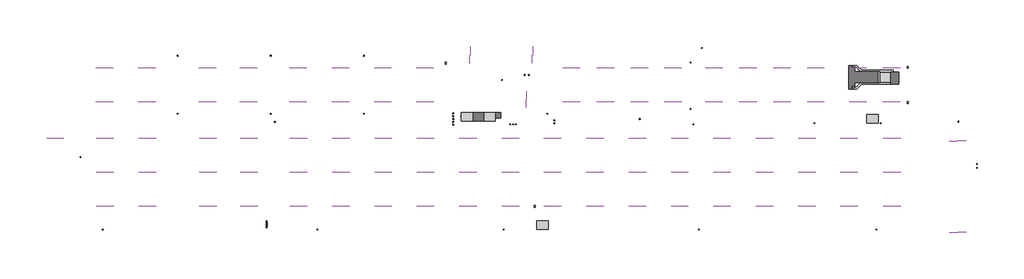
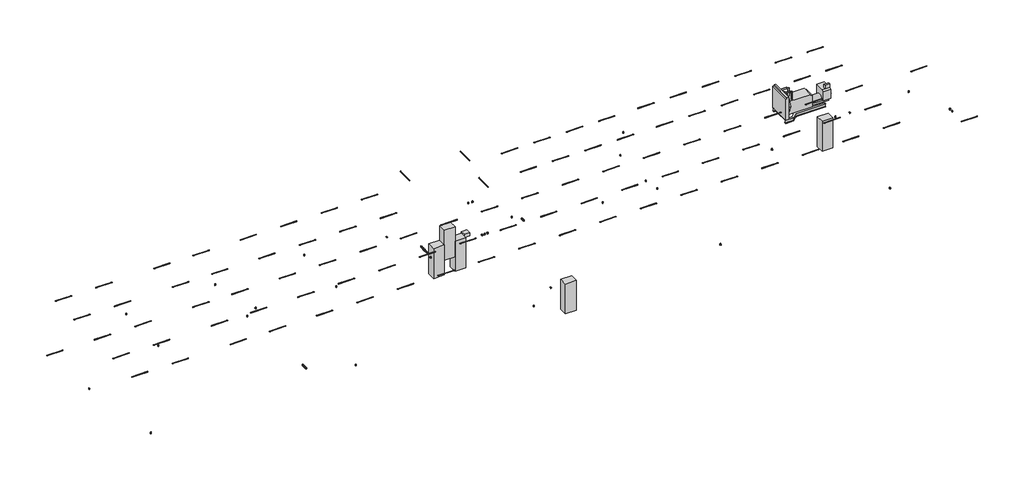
# One storey: 99 light fixtures, 31 proxies, 23 switching devices.
"""IFC4 building model written with IfcOpenShell, lengths in millimetres."""

from ifc_helpers import new_model, si_unit, origin, place, context, project, spatial, transform, mapped, element, save
from components import electrical_fixtures_10251bba, proxy_100_a_aaeb1d20, proxy_15_kva_9bd1221f, proxy_300_kw_5f2c5fbb, proxy_75_a_97e29286, light_fixture_5f90fc17

model = new_model("IFC4")

# Units and contexts
model_context = context("Model", 3, world=origin())
ifc_project = project(units=[si_unit("LENGTHUNIT", "METRE", prefix="MILLI")], contexts=[model_context])

# Site, building, storey
site = spatial("IfcSite", under=ifc_project)
building = spatial("IfcBuilding", under=site)
storey = spatial("IfcBuildingStorey", under=building, Name="B1F 插座", Elevation=-3850.0)

# Proxies
placement = place(None, origin())
electrical_fixtures_shape = electrical_fixtures_10251bba(model_context)
element("IfcBuildingElementProxy", 1, Name="M_雙插座盒 : 標準", ObjectType="M_雙插座盒 : 標準", at=placement, inside=storey, context=model_context, shape_type="MappedRepresentation", body=[
    mapped(electrical_fixtures_shape, transform((-1757.8389591, 3445.8783319, -3550.0), x_axis=(1.0, 0.0, 0.0), y_axis=(0.0, 0.0, 1.0), z_axis=(0.0, -1.0, 0.0))),
])
element("IfcBuildingElementProxy", 2, Name="M_雙插座盒 : 標準", ObjectType="M_雙插座盒 : 標準", at=placement, inside=storey, context=model_context, shape_type="MappedRepresentation", body=[
    mapped(electrical_fixtures_shape, transform((4842.1610409, 3445.8783319, -3550.0), x_axis=(1.0, 0.0, 0.0), y_axis=(0.0, 0.0, 1.0), z_axis=(0.0, -1.0, 0.0))),
])
element("IfcBuildingElementProxy", 3, Name="M_雙插座盒 : 標準", ObjectType="M_雙插座盒 : 標準", at=placement, inside=storey, context=model_context, shape_type="MappedRepresentation", body=[
    mapped(electrical_fixtures_shape, transform((11442.1610409, -624.1216681, -3550.0), x_axis=(-1.0, 0.0, 0.0), y_axis=(0.0, 0.0, 1.0), z_axis=(0.0, 1.0, 0.0))),
])
element("IfcBuildingElementProxy", 4, Name="M_雙插座盒 : 標準", ObjectType="M_雙插座盒 : 標準", at=placement, inside=storey, context=model_context, shape_type="MappedRepresentation", body=[
    mapped(electrical_fixtures_shape, transform((11442.1610409, 3445.8783319, -3550.0), x_axis=(1.0, 0.0, 0.0), y_axis=(0.0, 0.0, 1.0), z_axis=(0.0, -1.0, 0.0))),
])
element("IfcBuildingElementProxy", 5, Name="M_雙插座盒 : 標準", ObjectType="M_雙插座盒 : 標準", at=placement, inside=storey, context=model_context, shape_type="MappedRepresentation", body=[
    mapped(electrical_fixtures_shape, transform((4842.1610409, -624.1216681, -3550.0), x_axis=(-1.0, 0.0, 0.0), y_axis=(0.0, 0.0, 1.0), z_axis=(0.0, 1.0, 0.0))),
])
element("IfcBuildingElementProxy", 6, Name="M_雙插座盒 : 標準", ObjectType="M_雙插座盒 : 標準", at=placement, inside=storey, context=model_context, shape_type="MappedRepresentation", body=[
    mapped(electrical_fixtures_shape, transform((-1757.8389591, -624.1216681, -3550.0), x_axis=(-1.0, 0.0, 0.0), y_axis=(0.0, 0.0, 1.0), z_axis=(0.0, 1.0, 0.0))),
])
element("IfcBuildingElementProxy", 7, Name="M_雙插座盒 : 標準", ObjectType="M_雙插座盒 : 標準", at=placement, inside=storey, context=model_context, shape_type="MappedRepresentation", body=[
    mapped(electrical_fixtures_shape, transform((-7057.8389591, -8844.1216681, -3550.0), x_axis=(-1.0, 0.0, 0.0), y_axis=(0.0, 0.0, 1.0), z_axis=(0.0, 1.0, 0.0))),
])
element("IfcBuildingElementProxy", 8, Name="M_雙插座盒 : 標準", ObjectType="M_雙插座盒 : 標準", at=placement, inside=storey, context=model_context, shape_type="MappedRepresentation", body=[
    mapped(electrical_fixtures_shape, transform((8142.1610409, -8844.1216681, -3550.0), x_axis=(-1.0, 0.0, 0.0), y_axis=(0.0, 0.0, 1.0), z_axis=(0.0, 1.0, 0.0))),
])
element("IfcBuildingElementProxy", 9, Name="M_雙插座盒 : 標準", ObjectType="M_雙插座盒 : 標準", at=placement, inside=storey, context=model_context, shape_type="MappedRepresentation", body=[
    mapped(electrical_fixtures_shape, transform((21343.1610409, -8844.1216681, -3550.0), x_axis=(-1.0, 0.0, 0.0), y_axis=(0.0, 0.0, 1.0), z_axis=(0.0, 1.0, 0.0))),
])
element("IfcBuildingElementProxy", 10, Name="M_雙插座盒 : 標準", ObjectType="M_雙插座盒 : 標準", at=placement, inside=storey, context=model_context, shape_type="MappedRepresentation", body=[
    mapped(electrical_fixtures_shape, transform((35172.1610409, -8844.1216681, -3550.0), x_axis=(-1.0, 0.0, 0.0), y_axis=(0.0, 0.0, 1.0), z_axis=(0.0, 1.0, 0.0))),
])
element("IfcBuildingElementProxy", 11, Name="M_雙插座盒 : 標準", ObjectType="M_雙插座盒 : 標準", at=placement, inside=storey, context=model_context, shape_type="MappedRepresentation", body=[
    mapped(electrical_fixtures_shape, transform((47742.1610409, -8844.1216681, -3550.0), x_axis=(-1.0, 0.0, 0.0), y_axis=(0.0, 0.0, 1.0), z_axis=(0.0, 1.0, 0.0))),
])
element("IfcBuildingElementProxy", 12, Name="M_雙插座盒 : 標準", ObjectType="M_雙插座盒 : 標準", at=placement, inside=storey, context=model_context, shape_type="MappedRepresentation", body=[
    mapped(electrical_fixtures_shape, transform((43342.1610409, -1304.1216681, -3550.0), x_axis=(-1.0, 0.0, 0.0), y_axis=(0.0, 0.0, 1.0), z_axis=(0.0, 1.0, 0.0))),
])
element("IfcBuildingElementProxy", 13, Name="M_雙插座盒 : 標準", ObjectType="M_雙插座盒 : 標準", at=placement, inside=storey, context=model_context, shape_type="MappedRepresentation", body=[
    mapped(electrical_fixtures_shape, transform((34782.1610409, -1424.1216681, -3550.0), x_axis=(1.0, 0.0, 0.0), y_axis=(0.0, 0.0, 1.0), z_axis=(0.0, -1.0, 0.0))),
])
element("IfcBuildingElementProxy", 14, Name="M_雙插座盒 : 標準", ObjectType="M_雙插座盒 : 標準", at=placement, inside=storey, context=model_context, shape_type="MappedRepresentation", body=[
    mapped(electrical_fixtures_shape, transform((34602.1610409, -304.1216681, -3550.0), x_axis=(0.0, 1.0, 0.0), y_axis=(0.0, 0.0, 1.0), z_axis=(1.0, 0.0, 0.0))),
])
element("IfcBuildingElementProxy", 15, Name="M_雙插座盒 : 標準", ObjectType="M_雙插座盒 : 標準", at=placement, inside=storey, context=model_context, shape_type="MappedRepresentation", body=[
    mapped(electrical_fixtures_shape, transform((34602.1610409, 2995.8783319, -3550.0), x_axis=(0.0, 1.0, 0.0), y_axis=(0.0, 0.0, 1.0), z_axis=(1.0, 0.0, 0.0))),
])
element("IfcBuildingElementProxy", 16, Name="M_雙插座盒 : 標準", ObjectType="M_雙插座盒 : 標準", at=placement, inside=storey, context=model_context, shape_type="MappedRepresentation", body=[
    mapped(electrical_fixtures_shape, transform((30942.1610409, -1024.1216681, -3550.0), x_axis=(0.0, -1.0, 0.0), y_axis=(0.0, 0.0, 1.0), z_axis=(-1.0, 0.0, 0.0))),
])
element("IfcBuildingElementProxy", 17, Name="M_雙插座盒 : 標準", ObjectType="M_雙插座盒 : 標準", at=placement, inside=storey, context=model_context, shape_type="MappedRepresentation", body=[
    mapped(electrical_fixtures_shape, transform((21192.1610409, 1745.8783319, -3550.0), x_axis=(0.0, -1.0, 0.0), y_axis=(0.0, 0.0, 1.0), z_axis=(-1.0, 0.0, 0.0))),
])
element("IfcBuildingElementProxy", 18, Name="M_雙插座盒 : 標準", ObjectType="M_雙插座盒 : 標準", at=placement, inside=storey, context=model_context, shape_type="MappedRepresentation", body=[
    mapped(electrical_fixtures_shape, transform((18342.1610409, -824.1216681, -3550.0), x_axis=(0.0, 1.0, 0.0), y_axis=(0.0, 0.0, 1.0), z_axis=(1.0, 0.0, 0.0))),
])
element("IfcBuildingElementProxy", 19, Name="M_馬達開關 : 標準", ObjectType="M_馬達開關 : 標準", at=placement, inside=storey, context=model_context, shape_type="MappedRepresentation", body=[
    mapped(electrical_fixtures_shape, transform((5142.1610409, -1224.1216681, -2650.0), x_axis=(0.0, 1.0, 0.0), y_axis=(0.0, 0.0, 1.0), z_axis=(1.0, 0.0, 0.0))),
])
element("IfcBuildingElementProxy", 20, Name="M_馬達開關 : 標準", ObjectType="M_馬達開關 : 標準", at=placement, inside=storey, context=model_context, shape_type="MappedRepresentation", body=[
    mapped(electrical_fixtures_shape, transform((17242.1610409, 2945.8783319, -3850.0), x_axis=(1.0, 0.0, 0.0), y_axis=(0.0, 1.0, 0.0), z_axis=(0.0, 0.0, 1.0))),
])
element("IfcBuildingElementProxy", 21, Name="M_馬達開關 : 標準", ObjectType="M_馬達開關 : 標準", at=placement, inside=storey, context=model_context, shape_type="MappedRepresentation", body=[
    mapped(electrical_fixtures_shape, transform((35382.1610409, 3995.8783319, -2650.0), x_axis=(1.0, 0.0, 0.0), y_axis=(0.0, 0.0, 1.0), z_axis=(0.0, -1.0, 0.0))),
])
element("IfcBuildingElementProxy", 22, Name="M_馬達開關 : 標準", ObjectType="M_馬達開關 : 標準", at=placement, inside=storey, context=model_context, shape_type="MappedRepresentation", body=[
    mapped(electrical_fixtures_shape, transform((49942.1610409, 2645.8783319, -3850.0), x_axis=(1.0, 0.0, 0.0), y_axis=(0.0, 1.0, 0.0), z_axis=(0.0, 0.0, 1.0))),
])
element("IfcBuildingElementProxy", 23, Name="M_馬達開關 : 標準", ObjectType="M_馬達開關 : 標準", at=placement, inside=storey, context=model_context, shape_type="MappedRepresentation", body=[
    mapped(electrical_fixtures_shape, transform((49942.1610409, 145.8783319, -3850.0), x_axis=(1.0, 0.0, 0.0), y_axis=(0.0, 1.0, 0.0), z_axis=(0.0, 0.0, 1.0))),
])
element("IfcBuildingElementProxy", 24, Name="M_馬達開關 : 標準", ObjectType="M_馬達開關 : 標準", at=placement, inside=storey, context=model_context, shape_type="MappedRepresentation", body=[
    mapped(electrical_fixtures_shape, transform((23542.1610409, -7224.1216681, -3850.0), x_axis=(1.0, 0.0, 0.0), y_axis=(0.0, 1.0, 0.0), z_axis=(0.0, 0.0, 1.0))),
])
proxy_100_a_shape = proxy_100_a_aaeb1d20(model_context)
element("IfcBuildingElementProxy", 25, Name="M_燈光與家電用品配電盤 - 208V MCB - 表面 : 100 A", ObjectType="M_燈光與家電用品配電盤 - 208V MCB - 表面 : 100 A", at=placement, inside=storey, context=model_context, shape_type="MappedRepresentation", body=[
    mapped(proxy_100_a_shape, transform((19446.9015703, -574.1216681, -2438.8943297), x_axis=(1.0, 0.0, 0.0), y_axis=(0.0, 0.0, 1.0), z_axis=(0.0, -1.0, 0.0))),
])
element("IfcBuildingElementProxy", 26, Name="M_燈光與家電用品配電盤 - 208V MCB - 表面 : 100 A", ObjectType="M_燈光與家電用品配電盤 - 208V MCB - 表面 : 100 A", at=placement, inside=storey, context=model_context, shape_type="MappedRepresentation", body=[
    mapped(proxy_100_a_shape, transform((47557.4205115, -1304.1216681, -3588.8943297), x_axis=(-1.0, 0.0, 0.0), y_axis=(0.0, 0.0, 1.0), z_axis=(0.0, 1.0, 0.0))),
])
element("IfcBuildingElementProxy", 27, Name="M_燈光與家電用品配電盤 - 208V MCB - 表面 : 100 A", ObjectType="M_燈光與家電用品配電盤 - 208V MCB - 表面 : 100 A", at=placement, inside=storey, context=model_context, shape_type="MappedRepresentation", body=[
    mapped(proxy_100_a_shape, transform((24183.4205115, -8844.1216681, -3588.8943297), x_axis=(-1.0, 0.0, 0.0), y_axis=(0.0, 0.0, 1.0), z_axis=(0.0, 1.0, 0.0))),
])
element("IfcBuildingElementProxy", 28, Name="M_燈光與家電用品配電盤 - 208V MCB - 表面 : 100 A", ObjectType="M_燈光與家電用品配電盤 - 208V MCB - 表面 : 100 A", at=placement, inside=storey, context=model_context, shape_type="MappedRepresentation", body=[
    mapped(proxy_100_a_shape, transform((20246.9015703, -574.1216681, -3588.8943297), x_axis=(1.0, 0.0, 0.0), y_axis=(0.0, 0.0, 1.0), z_axis=(0.0, -1.0, 0.0))),
])
proxy_15_kva_shape = proxy_15_kva_9bd1221f(model_context)
element("IfcBuildingElementProxy", 29, Name="M_乾式變壓器 - 480-208Y120 - NEMA 類型 3R : 15 kVA", ObjectType="M_乾式變壓器 - 480-208Y120 - NEMA 類型 3R : 15 kVA", at=placement, inside=storey, context=model_context, shape_type="MappedRepresentation", body=[
    mapped(proxy_15_kva_shape, transform((20942.1610409, -574.1216681, -2650.0), x_axis=(1.0, 0.0, 0.0), y_axis=(0.0, 0.0, 1.0), z_axis=(0.0, -1.0, 0.0))),
])
proxy_300_kw_shape = proxy_300_kw_5f2c5fbb(model_context)
element("IfcBuildingElementProxy", 30, Name="M_柴油機緊急發電機 : 300 kW", ObjectType="M_柴油機緊急發電機 : 300 kW", at=placement, inside=storey, context=model_context, shape_type="MappedRepresentation", body=[
    mapped(proxy_300_kw_shape, transform((47542.1610409, 1945.8783319, -3850.0), x_axis=(1.0, 0.0, 0.0), y_axis=(0.0, 1.0, 0.0), z_axis=(0.0, 0.0, 1.0))),
])
proxy_75_a_shape = proxy_75_a_97e29286(model_context)
element("IfcBuildingElementProxy", 31, Name="M_燈光與家電用品配電盤 - 480V MCB - 表面 : 75 A", ObjectType="M_燈光與家電用品配電盤 - 480V MCB - 表面 : 75 A", at=placement, inside=storey, context=model_context, shape_type="MappedRepresentation", body=[
    mapped(proxy_75_a_shape, transform((18640.5610409, -574.1216681, -2650.0), x_axis=(1.0, 0.0, 0.0), y_axis=(0.0, 0.0, 1.0), z_axis=(0.0, -1.0, 0.0))),
])

# Light fixtures
light_fixture_shape = light_fixture_5f90fc17(model_context)
element("IfcLightFixture", 32, ObjectType="M_嵌燈 - 條燈 : 1200mm - 220V 28W*2", at=placement, inside=storey, context=model_context, shape_type="MappedRepresentation", body=[
    mapped(light_fixture_shape, transform((-6907.8389591, 2824.5219083, -3850.0), x_axis=(1.0, 0.0, 0.0), y_axis=(0.0, 1.0, 0.0), z_axis=(0.0, 0.0, 1.0))),
])
element("IfcLightFixture", 33, ObjectType="M_嵌燈 - 條燈 : 1200mm - 220V 28W*2", at=placement, inside=storey, context=model_context, shape_type="MappedRepresentation", body=[
    mapped(light_fixture_shape, transform((-3907.8389591, 2824.5219083, -3850.0), x_axis=(1.0, 0.0, 0.0), y_axis=(0.0, 1.0, 0.0), z_axis=(0.0, 0.0, 1.0))),
])
element("IfcLightFixture", 34, ObjectType="M_嵌燈 - 條燈 : 1200mm - 220V 28W*2", at=placement, inside=storey, context=model_context, shape_type="MappedRepresentation", body=[
    mapped(light_fixture_shape, transform((-3907.8389591, 424.5219083, -3850.0), x_axis=(1.0, 0.0, 0.0), y_axis=(0.0, 1.0, 0.0), z_axis=(0.0, 0.0, 1.0))),
])
element("IfcLightFixture", 35, ObjectType="M_嵌燈 - 條燈 : 1200mm - 220V 28W*2", at=placement, inside=storey, context=model_context, shape_type="MappedRepresentation", body=[
    mapped(light_fixture_shape, transform((-6907.8389591, 424.5219083, -3850.0), x_axis=(1.0, 0.0, 0.0), y_axis=(0.0, 1.0, 0.0), z_axis=(0.0, 0.0, 1.0))),
])
element("IfcLightFixture", 36, ObjectType="M_嵌燈 - 條燈 : 1200mm - 220V 28W*2", at=placement, inside=storey, context=model_context, shape_type="MappedRepresentation", body=[
    mapped(light_fixture_shape, transform((-6907.8389591, -2175.4780917, -3850.0), x_axis=(1.0, 0.0, 0.0), y_axis=(0.0, 1.0, 0.0), z_axis=(0.0, 0.0, 1.0))),
])
element("IfcLightFixture", 37, ObjectType="M_嵌燈 - 條燈 : 1200mm - 220V 28W*2", at=placement, inside=storey, context=model_context, shape_type="MappedRepresentation", body=[
    mapped(light_fixture_shape, transform((-3907.8389591, -2175.4780917, -3850.0), x_axis=(1.0, 0.0, 0.0), y_axis=(0.0, 1.0, 0.0), z_axis=(0.0, 0.0, 1.0))),
])
element("IfcLightFixture", 38, ObjectType="M_嵌燈 - 條燈 : 1200mm - 220V 28W*2", at=placement, inside=storey, context=model_context, shape_type="MappedRepresentation", body=[
    mapped(light_fixture_shape, transform((-6907.8389591, -4575.4780917, -3850.0), x_axis=(1.0, 0.0, 0.0), y_axis=(0.0, 1.0, 0.0), z_axis=(0.0, 0.0, 1.0))),
])
element("IfcLightFixture", 39, ObjectType="M_嵌燈 - 條燈 : 1200mm - 220V 28W*2", at=placement, inside=storey, context=model_context, shape_type="MappedRepresentation", body=[
    mapped(light_fixture_shape, transform((-3907.8389591, -4575.4780917, -3850.0), x_axis=(1.0, 0.0, 0.0), y_axis=(0.0, 1.0, 0.0), z_axis=(0.0, 0.0, 1.0))),
])
element("IfcLightFixture", 40, ObjectType="M_嵌燈 - 條燈 : 1200mm - 220V 28W*2", at=placement, inside=storey, context=model_context, shape_type="MappedRepresentation", body=[
    mapped(light_fixture_shape, transform((-3907.8389591, -6975.4780917, -3850.0), x_axis=(1.0, 0.0, 0.0), y_axis=(0.0, 1.0, 0.0), z_axis=(0.0, 0.0, 1.0))),
])
element("IfcLightFixture", 41, ObjectType="M_嵌燈 - 條燈 : 1200mm - 220V 28W*2", at=placement, inside=storey, context=model_context, shape_type="MappedRepresentation", body=[
    mapped(light_fixture_shape, transform((-6907.8389591, -6975.4780917, -3850.0), x_axis=(1.0, 0.0, 0.0), y_axis=(0.0, 1.0, 0.0), z_axis=(0.0, 0.0, 1.0))),
])
element("IfcLightFixture", 42, ObjectType="M_嵌燈 - 條燈 : 1200mm - 220V 28W*2", at=placement, inside=storey, context=model_context, shape_type="MappedRepresentation", body=[
    mapped(light_fixture_shape, transform((392.1610409, 2824.5219083, -3850.0), x_axis=(1.0, 0.0, 0.0), y_axis=(0.0, 1.0, 0.0), z_axis=(0.0, 0.0, 1.0))),
])
element("IfcLightFixture", 43, ObjectType="M_嵌燈 - 條燈 : 1200mm - 220V 28W*2", at=placement, inside=storey, context=model_context, shape_type="MappedRepresentation", body=[
    mapped(light_fixture_shape, transform((3292.1610409, 2824.5219083, -3850.0), x_axis=(1.0, 0.0, 0.0), y_axis=(0.0, 1.0, 0.0), z_axis=(0.0, 0.0, 1.0))),
])
element("IfcLightFixture", 44, ObjectType="M_嵌燈 - 條燈 : 1200mm - 220V 28W*2", at=placement, inside=storey, context=model_context, shape_type="MappedRepresentation", body=[
    mapped(light_fixture_shape, transform((3292.1610409, 424.5219083, -3850.0), x_axis=(1.0, 0.0, 0.0), y_axis=(0.0, 1.0, 0.0), z_axis=(0.0, 0.0, 1.0))),
])
element("IfcLightFixture", 45, ObjectType="M_嵌燈 - 條燈 : 1200mm - 220V 28W*2", at=placement, inside=storey, context=model_context, shape_type="MappedRepresentation", body=[
    mapped(light_fixture_shape, transform((392.1610409, 424.5219083, -3850.0), x_axis=(1.0, 0.0, 0.0), y_axis=(0.0, 1.0, 0.0), z_axis=(0.0, 0.0, 1.0))),
])
element("IfcLightFixture", 46, ObjectType="M_嵌燈 - 條燈 : 1200mm - 220V 28W*2", at=placement, inside=storey, context=model_context, shape_type="MappedRepresentation", body=[
    mapped(light_fixture_shape, transform((392.1610409, -2175.4780917, -3850.0), x_axis=(1.0, 0.0, 0.0), y_axis=(0.0, 1.0, 0.0), z_axis=(0.0, 0.0, 1.0))),
])
element("IfcLightFixture", 47, ObjectType="M_嵌燈 - 條燈 : 1200mm - 220V 28W*2", at=placement, inside=storey, context=model_context, shape_type="MappedRepresentation", body=[
    mapped(light_fixture_shape, transform((3292.1610409, -2175.4780917, -3850.0), x_axis=(1.0, 0.0, 0.0), y_axis=(0.0, 1.0, 0.0), z_axis=(0.0, 0.0, 1.0))),
])
element("IfcLightFixture", 48, ObjectType="M_嵌燈 - 條燈 : 1200mm - 220V 28W*2", at=placement, inside=storey, context=model_context, shape_type="MappedRepresentation", body=[
    mapped(light_fixture_shape, transform((3292.1610409, -4575.4780917, -3850.0), x_axis=(1.0, 0.0, 0.0), y_axis=(0.0, 1.0, 0.0), z_axis=(0.0, 0.0, 1.0))),
])
element("IfcLightFixture", 49, ObjectType="M_嵌燈 - 條燈 : 1200mm - 220V 28W*2", at=placement, inside=storey, context=model_context, shape_type="MappedRepresentation", body=[
    mapped(light_fixture_shape, transform((392.1610409, -4575.4780917, -3850.0), x_axis=(1.0, 0.0, 0.0), y_axis=(0.0, 1.0, 0.0), z_axis=(0.0, 0.0, 1.0))),
])
element("IfcLightFixture", 50, ObjectType="M_嵌燈 - 條燈 : 1200mm - 220V 28W*2", at=placement, inside=storey, context=model_context, shape_type="MappedRepresentation", body=[
    mapped(light_fixture_shape, transform((392.1610409, -6975.4780917, -3850.0), x_axis=(1.0, 0.0, 0.0), y_axis=(0.0, 1.0, 0.0), z_axis=(0.0, 0.0, 1.0))),
])
element("IfcLightFixture", 51, ObjectType="M_嵌燈 - 條燈 : 1200mm - 220V 28W*2", at=placement, inside=storey, context=model_context, shape_type="MappedRepresentation", body=[
    mapped(light_fixture_shape, transform((3292.1610409, -6975.4780917, -3850.0), x_axis=(1.0, 0.0, 0.0), y_axis=(0.0, 1.0, 0.0), z_axis=(0.0, 0.0, 1.0))),
])
element("IfcLightFixture", 52, ObjectType="M_嵌燈 - 條燈 : 1200mm - 220V 28W*2", at=placement, inside=storey, context=model_context, shape_type="MappedRepresentation", body=[
    mapped(light_fixture_shape, transform((6792.1610409, -2175.4780917, -3850.0), x_axis=(1.0, 0.0, 0.0), y_axis=(0.0, 1.0, 0.0), z_axis=(0.0, 0.0, 1.0))),
])
element("IfcLightFixture", 53, ObjectType="M_嵌燈 - 條燈 : 1200mm - 220V 28W*2", at=placement, inside=storey, context=model_context, shape_type="MappedRepresentation", body=[
    mapped(light_fixture_shape, transform((9792.1610409, -2175.4780917, -3850.0), x_axis=(1.0, 0.0, 0.0), y_axis=(0.0, 1.0, 0.0), z_axis=(0.0, 0.0, 1.0))),
])
element("IfcLightFixture", 54, ObjectType="M_嵌燈 - 條燈 : 1200mm - 220V 28W*2", at=placement, inside=storey, context=model_context, shape_type="MappedRepresentation", body=[
    mapped(light_fixture_shape, transform((9792.1610409, -4575.4780917, -3850.0), x_axis=(1.0, 0.0, 0.0), y_axis=(0.0, 1.0, 0.0), z_axis=(0.0, 0.0, 1.0))),
])
element("IfcLightFixture", 55, ObjectType="M_嵌燈 - 條燈 : 1200mm - 220V 28W*2", at=placement, inside=storey, context=model_context, shape_type="MappedRepresentation", body=[
    mapped(light_fixture_shape, transform((6792.1610409, -4575.4780917, -3850.0), x_axis=(1.0, 0.0, 0.0), y_axis=(0.0, 1.0, 0.0), z_axis=(0.0, 0.0, 1.0))),
])
element("IfcLightFixture", 56, ObjectType="M_嵌燈 - 條燈 : 1200mm - 220V 28W*2", at=placement, inside=storey, context=model_context, shape_type="MappedRepresentation", body=[
    mapped(light_fixture_shape, transform((6792.1610409, -6975.4780917, -3850.0), x_axis=(1.0, 0.0, 0.0), y_axis=(0.0, 1.0, 0.0), z_axis=(0.0, 0.0, 1.0))),
])
element("IfcLightFixture", 57, ObjectType="M_嵌燈 - 條燈 : 1200mm - 220V 28W*2", at=placement, inside=storey, context=model_context, shape_type="MappedRepresentation", body=[
    mapped(light_fixture_shape, transform((9792.1610409, -6975.4780917, -3850.0), x_axis=(1.0, 0.0, 0.0), y_axis=(0.0, 1.0, 0.0), z_axis=(0.0, 0.0, 1.0))),
])
element("IfcLightFixture", 58, ObjectType="M_嵌燈 - 條燈 : 1200mm - 220V 28W*2", at=placement, inside=storey, context=model_context, shape_type="MappedRepresentation", body=[
    mapped(light_fixture_shape, transform((6792.1610409, 424.5219083, -3850.0), x_axis=(1.0, 0.0, 0.0), y_axis=(0.0, 1.0, 0.0), z_axis=(0.0, 0.0, 1.0))),
])
element("IfcLightFixture", 59, ObjectType="M_嵌燈 - 條燈 : 1200mm - 220V 28W*2", at=placement, inside=storey, context=model_context, shape_type="MappedRepresentation", body=[
    mapped(light_fixture_shape, transform((9792.1610409, 424.5219083, -3850.0), x_axis=(1.0, 0.0, 0.0), y_axis=(0.0, 1.0, 0.0), z_axis=(0.0, 0.0, 1.0))),
])
element("IfcLightFixture", 60, ObjectType="M_嵌燈 - 條燈 : 1200mm - 220V 28W*2", at=placement, inside=storey, context=model_context, shape_type="MappedRepresentation", body=[
    mapped(light_fixture_shape, transform((9792.1610409, 2824.5219083, -3850.0), x_axis=(1.0, 0.0, 0.0), y_axis=(0.0, 1.0, 0.0), z_axis=(0.0, 0.0, 1.0))),
])
element("IfcLightFixture", 61, ObjectType="M_嵌燈 - 條燈 : 1200mm - 220V 28W*2", at=placement, inside=storey, context=model_context, shape_type="MappedRepresentation", body=[
    mapped(light_fixture_shape, transform((12792.1610409, 2824.5219083, -3850.0), x_axis=(1.0, 0.0, 0.0), y_axis=(0.0, 1.0, 0.0), z_axis=(0.0, 0.0, 1.0))),
])
element("IfcLightFixture", 62, ObjectType="M_嵌燈 - 條燈 : 1200mm - 220V 28W*2", at=placement, inside=storey, context=model_context, shape_type="MappedRepresentation", body=[
    mapped(light_fixture_shape, transform((15792.1610409, 2824.5219083, -3850.0), x_axis=(1.0, 0.0, 0.0), y_axis=(0.0, 1.0, 0.0), z_axis=(0.0, 0.0, 1.0))),
])
element("IfcLightFixture", 63, ObjectType="M_嵌燈 - 條燈 : 1200mm - 220V 28W*2", at=placement, inside=storey, context=model_context, shape_type="MappedRepresentation", body=[
    mapped(light_fixture_shape, transform((12792.1610409, 424.5219083, -3850.0), x_axis=(1.0, 0.0, 0.0), y_axis=(0.0, 1.0, 0.0), z_axis=(0.0, 0.0, 1.0))),
])
element("IfcLightFixture", 64, ObjectType="M_嵌燈 - 條燈 : 1200mm - 220V 28W*2", at=placement, inside=storey, context=model_context, shape_type="MappedRepresentation", body=[
    mapped(light_fixture_shape, transform((15792.1610409, 424.5219083, -3850.0), x_axis=(1.0, 0.0, 0.0), y_axis=(0.0, 1.0, 0.0), z_axis=(0.0, 0.0, 1.0))),
])
element("IfcLightFixture", 65, ObjectType="M_嵌燈 - 條燈 : 1200mm - 220V 28W*2", at=placement, inside=storey, context=model_context, shape_type="MappedRepresentation", body=[
    mapped(light_fixture_shape, transform((12792.1610409, -2175.4780917, -3850.0), x_axis=(1.0, 0.0, 0.0), y_axis=(0.0, 1.0, 0.0), z_axis=(0.0, 0.0, 1.0))),
])
element("IfcLightFixture", 66, ObjectType="M_嵌燈 - 條燈 : 1200mm - 220V 28W*2", at=placement, inside=storey, context=model_context, shape_type="MappedRepresentation", body=[
    mapped(light_fixture_shape, transform((15792.1610409, -2175.4780917, -3850.0), x_axis=(1.0, 0.0, 0.0), y_axis=(0.0, 1.0, 0.0), z_axis=(0.0, 0.0, 1.0))),
])
element("IfcLightFixture", 67, ObjectType="M_嵌燈 - 條燈 : 1200mm - 220V 28W*2", at=placement, inside=storey, context=model_context, shape_type="MappedRepresentation", body=[
    mapped(light_fixture_shape, transform((12792.1610409, -4575.4780917, -3850.0), x_axis=(1.0, 0.0, 0.0), y_axis=(0.0, 1.0, 0.0), z_axis=(0.0, 0.0, 1.0))),
])
element("IfcLightFixture", 68, ObjectType="M_嵌燈 - 條燈 : 1200mm - 220V 28W*2", at=placement, inside=storey, context=model_context, shape_type="MappedRepresentation", body=[
    mapped(light_fixture_shape, transform((12792.1610409, -6975.4780917, -3850.0), x_axis=(1.0, 0.0, 0.0), y_axis=(0.0, 1.0, 0.0), z_axis=(0.0, 0.0, 1.0))),
])
element("IfcLightFixture", 69, ObjectType="M_嵌燈 - 條燈 : 1200mm - 220V 28W*2", at=placement, inside=storey, context=model_context, shape_type="MappedRepresentation", body=[
    mapped(light_fixture_shape, transform((15792.1610409, -4575.4780917, -3850.0), x_axis=(1.0, 0.0, 0.0), y_axis=(0.0, 1.0, 0.0), z_axis=(0.0, 0.0, 1.0))),
])
element("IfcLightFixture", 70, ObjectType="M_嵌燈 - 條燈 : 1200mm - 220V 28W*2", at=placement, inside=storey, context=model_context, shape_type="MappedRepresentation", body=[
    mapped(light_fixture_shape, transform((15792.1610409, -6975.4780917, -3850.0), x_axis=(1.0, 0.0, 0.0), y_axis=(0.0, 1.0, 0.0), z_axis=(0.0, 0.0, 1.0))),
])
element("IfcLightFixture", 71, ObjectType="M_嵌燈 - 條燈 : 1200mm - 220V 28W*2", at=placement, inside=storey, context=model_context, shape_type="MappedRepresentation", body=[
    mapped(light_fixture_shape, transform((18792.1610409, -2175.4780917, -3850.0), x_axis=(1.0, 0.0, 0.0), y_axis=(0.0, 1.0, 0.0), z_axis=(0.0, 0.0, 1.0))),
])
element("IfcLightFixture", 72, ObjectType="M_嵌燈 - 條燈 : 1200mm - 220V 28W*2", at=placement, inside=storey, context=model_context, shape_type="MappedRepresentation", body=[
    mapped(light_fixture_shape, transform((21792.1610409, -2175.4780917, -3850.0), x_axis=(1.0, 0.0, 0.0), y_axis=(0.0, 1.0, 0.0), z_axis=(0.0, 0.0, 1.0))),
])
element("IfcLightFixture", 73, ObjectType="M_嵌燈 - 條燈 : 1200mm - 220V 28W*2", at=placement, inside=storey, context=model_context, shape_type="MappedRepresentation", body=[
    mapped(light_fixture_shape, transform((21792.1610409, -4575.4780917, -3850.0), x_axis=(1.0, 0.0, 0.0), y_axis=(0.0, 1.0, 0.0), z_axis=(0.0, 0.0, 1.0))),
])
element("IfcLightFixture", 74, ObjectType="M_嵌燈 - 條燈 : 1200mm - 220V 28W*2", at=placement, inside=storey, context=model_context, shape_type="MappedRepresentation", body=[
    mapped(light_fixture_shape, transform((18792.1610409, -4575.4780917, -3850.0), x_axis=(1.0, 0.0, 0.0), y_axis=(0.0, 1.0, 0.0), z_axis=(0.0, 0.0, 1.0))),
])
element("IfcLightFixture", 75, ObjectType="M_嵌燈 - 條燈 : 1200mm - 220V 28W*2", at=placement, inside=storey, context=model_context, shape_type="MappedRepresentation", body=[
    mapped(light_fixture_shape, transform((18792.1610409, -6975.4780917, -3850.0), x_axis=(1.0, 0.0, 0.0), y_axis=(0.0, 1.0, 0.0), z_axis=(0.0, 0.0, 1.0))),
])
element("IfcLightFixture", 76, ObjectType="M_嵌燈 - 條燈 : 1200mm - 220V 28W*2", at=placement, inside=storey, context=model_context, shape_type="MappedRepresentation", body=[
    mapped(light_fixture_shape, transform((21792.1610409, -6975.4780917, -3850.0), x_axis=(1.0, 0.0, 0.0), y_axis=(0.0, 1.0, 0.0), z_axis=(0.0, 0.0, 1.0))),
])
element("IfcLightFixture", 77, ObjectType="M_嵌燈 - 條燈 : 1200mm - 220V 28W*2", at=placement, inside=storey, context=model_context, shape_type="MappedRepresentation", body=[
    mapped(light_fixture_shape, transform((24792.1610409, -2175.4780917, -3850.0), x_axis=(1.0, 0.0, 0.0), y_axis=(0.0, 1.0, 0.0), z_axis=(0.0, 0.0, 1.0))),
])
element("IfcLightFixture", 78, ObjectType="M_嵌燈 - 條燈 : 1200mm - 220V 28W*2", at=placement, inside=storey, context=model_context, shape_type="MappedRepresentation", body=[
    mapped(light_fixture_shape, transform((24792.1610409, -4575.4780917, -3850.0), x_axis=(1.0, 0.0, 0.0), y_axis=(0.0, 1.0, 0.0), z_axis=(0.0, 0.0, 1.0))),
])
element("IfcLightFixture", 79, ObjectType="M_嵌燈 - 條燈 : 1200mm - 220V 28W*2", at=placement, inside=storey, context=model_context, shape_type="MappedRepresentation", body=[
    mapped(light_fixture_shape, transform((24792.1610409, -6975.4780917, -3850.0), x_axis=(1.0, 0.0, 0.0), y_axis=(0.0, 1.0, 0.0), z_axis=(0.0, 0.0, 1.0))),
])
element("IfcLightFixture", 80, ObjectType="M_嵌燈 - 條燈 : 1200mm - 220V 28W*2", at=placement, inside=storey, context=model_context, shape_type="MappedRepresentation", body=[
    mapped(light_fixture_shape, transform((27792.1610409, -2175.4780917, -3850.0), x_axis=(1.0, 0.0, 0.0), y_axis=(0.0, 1.0, 0.0), z_axis=(0.0, 0.0, 1.0))),
])
element("IfcLightFixture", 81, ObjectType="M_嵌燈 - 條燈 : 1200mm - 220V 28W*2", at=placement, inside=storey, context=model_context, shape_type="MappedRepresentation", body=[
    mapped(light_fixture_shape, transform((27792.1610409, -4575.4780917, -3850.0), x_axis=(1.0, 0.0, 0.0), y_axis=(0.0, 1.0, 0.0), z_axis=(0.0, 0.0, 1.0))),
])
element("IfcLightFixture", 82, ObjectType="M_嵌燈 - 條燈 : 1200mm - 220V 28W*2", at=placement, inside=storey, context=model_context, shape_type="MappedRepresentation", body=[
    mapped(light_fixture_shape, transform((27792.1610409, -6975.4780917, -3850.0), x_axis=(1.0, 0.0, 0.0), y_axis=(0.0, 1.0, 0.0), z_axis=(0.0, 0.0, 1.0))),
])
element("IfcLightFixture", 83, ObjectType="M_嵌燈 - 條燈 : 1200mm - 220V 28W*2", at=placement, inside=storey, context=model_context, shape_type="MappedRepresentation", body=[
    mapped(light_fixture_shape, transform((30792.1610409, -2175.4780917, -3850.0), x_axis=(1.0, 0.0, 0.0), y_axis=(0.0, 1.0, 0.0), z_axis=(0.0, 0.0, 1.0))),
])
element("IfcLightFixture", 84, ObjectType="M_嵌燈 - 條燈 : 1200mm - 220V 28W*2", at=placement, inside=storey, context=model_context, shape_type="MappedRepresentation", body=[
    mapped(light_fixture_shape, transform((30792.1610409, -4575.4780917, -3850.0), x_axis=(1.0, 0.0, 0.0), y_axis=(0.0, 1.0, 0.0), z_axis=(0.0, 0.0, 1.0))),
])
element("IfcLightFixture", 85, ObjectType="M_嵌燈 - 條燈 : 1200mm - 220V 28W*2", at=placement, inside=storey, context=model_context, shape_type="MappedRepresentation", body=[
    mapped(light_fixture_shape, transform((30792.1610409, -6975.4780917, -3850.0), x_axis=(1.0, 0.0, 0.0), y_axis=(0.0, 1.0, 0.0), z_axis=(0.0, 0.0, 1.0))),
])
element("IfcLightFixture", 86, ObjectType="M_嵌燈 - 條燈 : 1200mm - 220V 28W*2", at=placement, inside=storey, context=model_context, shape_type="MappedRepresentation", body=[
    mapped(light_fixture_shape, transform((33792.1610409, -2175.4780917, -3850.0), x_axis=(1.0, 0.0, 0.0), y_axis=(0.0, 1.0, 0.0), z_axis=(0.0, 0.0, 1.0))),
])
element("IfcLightFixture", 87, ObjectType="M_嵌燈 - 條燈 : 1200mm - 220V 28W*2", at=placement, inside=storey, context=model_context, shape_type="MappedRepresentation", body=[
    mapped(light_fixture_shape, transform((33792.1610409, -4575.4780917, -3850.0), x_axis=(1.0, 0.0, 0.0), y_axis=(0.0, 1.0, 0.0), z_axis=(0.0, 0.0, 1.0))),
])
element("IfcLightFixture", 88, ObjectType="M_嵌燈 - 條燈 : 1200mm - 220V 28W*2", at=placement, inside=storey, context=model_context, shape_type="MappedRepresentation", body=[
    mapped(light_fixture_shape, transform((33792.1610409, -6975.4780917, -3850.0), x_axis=(1.0, 0.0, 0.0), y_axis=(0.0, 1.0, 0.0), z_axis=(0.0, 0.0, 1.0))),
])
element("IfcLightFixture", 89, ObjectType="M_嵌燈 - 條燈 : 1200mm - 220V 28W*2", at=placement, inside=storey, context=model_context, shape_type="MappedRepresentation", body=[
    mapped(light_fixture_shape, transform((36792.1610409, -2175.4780917, -3850.0), x_axis=(1.0, 0.0, 0.0), y_axis=(0.0, 1.0, 0.0), z_axis=(0.0, 0.0, 1.0))),
])
element("IfcLightFixture", 90, ObjectType="M_嵌燈 - 條燈 : 1200mm - 220V 28W*2", at=placement, inside=storey, context=model_context, shape_type="MappedRepresentation", body=[
    mapped(light_fixture_shape, transform((36792.1610409, -4575.4780917, -3850.0), x_axis=(1.0, 0.0, 0.0), y_axis=(0.0, 1.0, 0.0), z_axis=(0.0, 0.0, 1.0))),
])
element("IfcLightFixture", 91, ObjectType="M_嵌燈 - 條燈 : 1200mm - 220V 28W*2", at=placement, inside=storey, context=model_context, shape_type="MappedRepresentation", body=[
    mapped(light_fixture_shape, transform((36792.1610409, -6975.4780917, -3850.0), x_axis=(1.0, 0.0, 0.0), y_axis=(0.0, 1.0, 0.0), z_axis=(0.0, 0.0, 1.0))),
])
element("IfcLightFixture", 92, ObjectType="M_嵌燈 - 條燈 : 1200mm - 220V 28W*2", at=placement, inside=storey, context=model_context, shape_type="MappedRepresentation", body=[
    mapped(light_fixture_shape, transform((39792.1610409, -6975.4780917, -3850.0), x_axis=(1.0, 0.0, 0.0), y_axis=(0.0, 1.0, 0.0), z_axis=(0.0, 0.0, 1.0))),
])
element("IfcLightFixture", 93, ObjectType="M_嵌燈 - 條燈 : 1200mm - 220V 28W*2", at=placement, inside=storey, context=model_context, shape_type="MappedRepresentation", body=[
    mapped(light_fixture_shape, transform((39792.1610409, -4575.4780917, -3850.0), x_axis=(1.0, 0.0, 0.0), y_axis=(0.0, 1.0, 0.0), z_axis=(0.0, 0.0, 1.0))),
])
element("IfcLightFixture", 94, ObjectType="M_嵌燈 - 條燈 : 1200mm - 220V 28W*2", at=placement, inside=storey, context=model_context, shape_type="MappedRepresentation", body=[
    mapped(light_fixture_shape, transform((39792.1610409, -2175.4780917, -3850.0), x_axis=(1.0, 0.0, 0.0), y_axis=(0.0, 1.0, 0.0), z_axis=(0.0, 0.0, 1.0))),
])
element("IfcLightFixture", 95, ObjectType="M_嵌燈 - 條燈 : 1200mm - 220V 28W*2", at=placement, inside=storey, context=model_context, shape_type="MappedRepresentation", body=[
    mapped(light_fixture_shape, transform((42792.1610409, -2175.4780917, -3850.0), x_axis=(1.0, 0.0, 0.0), y_axis=(0.0, 1.0, 0.0), z_axis=(0.0, 0.0, 1.0))),
])
element("IfcLightFixture", 96, ObjectType="M_嵌燈 - 條燈 : 1200mm - 220V 28W*2", at=placement, inside=storey, context=model_context, shape_type="MappedRepresentation", body=[
    mapped(light_fixture_shape, transform((42792.1610409, -4575.4780917, -3850.0), x_axis=(1.0, 0.0, 0.0), y_axis=(0.0, 1.0, 0.0), z_axis=(0.0, 0.0, 1.0))),
])
element("IfcLightFixture", 97, ObjectType="M_嵌燈 - 條燈 : 1200mm - 220V 28W*2", at=placement, inside=storey, context=model_context, shape_type="MappedRepresentation", body=[
    mapped(light_fixture_shape, transform((42792.1610409, -6975.4780917, -3850.0), x_axis=(1.0, 0.0, 0.0), y_axis=(0.0, 1.0, 0.0), z_axis=(0.0, 0.0, 1.0))),
])
element("IfcLightFixture", 98, ObjectType="M_嵌燈 - 條燈 : 1200mm - 220V 28W*2", at=placement, inside=storey, context=model_context, shape_type="MappedRepresentation", body=[
    mapped(light_fixture_shape, transform((45792.1610409, -6975.4780917, -3850.0), x_axis=(1.0, 0.0, 0.0), y_axis=(0.0, 1.0, 0.0), z_axis=(0.0, 0.0, 1.0))),
])
element("IfcLightFixture", 99, ObjectType="M_嵌燈 - 條燈 : 1200mm - 220V 28W*2", at=placement, inside=storey, context=model_context, shape_type="MappedRepresentation", body=[
    mapped(light_fixture_shape, transform((45792.1610409, -4575.4780917, -3850.0), x_axis=(1.0, 0.0, 0.0), y_axis=(0.0, 1.0, 0.0), z_axis=(0.0, 0.0, 1.0))),
])
element("IfcLightFixture", 100, ObjectType="M_嵌燈 - 條燈 : 1200mm - 220V 28W*2", at=placement, inside=storey, context=model_context, shape_type="MappedRepresentation", body=[
    mapped(light_fixture_shape, transform((45792.1610409, -2175.4780917, -3850.0), x_axis=(1.0, 0.0, 0.0), y_axis=(0.0, 1.0, 0.0), z_axis=(0.0, 0.0, 1.0))),
])
element("IfcLightFixture", 101, ObjectType="M_嵌燈 - 條燈 : 1200mm - 220V 28W*2", at=placement, inside=storey, context=model_context, shape_type="MappedRepresentation", body=[
    mapped(light_fixture_shape, transform((48812.1610409, -2175.4780917, -3850.0), x_axis=(1.0, 0.0, 0.0), y_axis=(0.0, 1.0, 0.0), z_axis=(0.0, 0.0, 1.0))),
])
element("IfcLightFixture", 102, ObjectType="M_嵌燈 - 條燈 : 1200mm - 220V 28W*2", at=placement, inside=storey, context=model_context, shape_type="MappedRepresentation", body=[
    mapped(light_fixture_shape, transform((48812.1610409, -4575.4780917, -3850.0), x_axis=(1.0, 0.0, 0.0), y_axis=(0.0, 1.0, 0.0), z_axis=(0.0, 0.0, 1.0))),
])
element("IfcLightFixture", 103, ObjectType="M_嵌燈 - 條燈 : 1200mm - 220V 28W*2", at=placement, inside=storey, context=model_context, shape_type="MappedRepresentation", body=[
    mapped(light_fixture_shape, transform((48812.1610409, -6975.4780917, -3850.0), x_axis=(1.0, 0.0, 0.0), y_axis=(0.0, 1.0, 0.0), z_axis=(0.0, 0.0, 1.0))),
])
element("IfcLightFixture", 104, ObjectType="M_嵌燈 - 條燈 : 1200mm - 220V 28W*2", at=placement, inside=storey, context=model_context, shape_type="MappedRepresentation", body=[
    mapped(light_fixture_shape, transform((-10437.8389591, -2175.4780917, -3850.0), x_axis=(1.0, 0.0, 0.0), y_axis=(0.0, 1.0, 0.0), z_axis=(0.0, 0.0, 1.0))),
])
element("IfcLightFixture", 105, ObjectType="M_嵌燈 - 條燈 : 1200mm - 220V 28W*2", at=placement, inside=storey, context=model_context, shape_type="MappedRepresentation", body=[
    mapped(light_fixture_shape, transform((19160.8046174, 3525.8783319, -3850.0), x_axis=(0.0, -1.0, 0.0), y_axis=(1.0, 0.0, 0.0), z_axis=(0.0, 0.0, 1.0))),
])
element("IfcLightFixture", 106, ObjectType="M_嵌燈 - 條燈 : 1200mm - 220V 28W*2", at=placement, inside=storey, context=model_context, shape_type="MappedRepresentation", body=[
    mapped(light_fixture_shape, transform((6792.1610409, 2824.5219083, -3850.0), x_axis=(1.0, 0.0, 0.0), y_axis=(0.0, 1.0, 0.0), z_axis=(0.0, 0.0, 1.0))),
])
element("IfcLightFixture", 107, ObjectType="M_嵌燈 - 條燈 : 1200mm - 220V 28W*2", at=placement, inside=storey, context=model_context, shape_type="MappedRepresentation", body=[
    mapped(light_fixture_shape, transform((26162.1610409, 2824.5219083, -3850.0), x_axis=(1.0, 0.0, 0.0), y_axis=(0.0, 1.0, 0.0), z_axis=(0.0, 0.0, 1.0))),
])
element("IfcLightFixture", 108, ObjectType="M_嵌燈 - 條燈 : 1200mm - 220V 28W*2", at=placement, inside=storey, context=model_context, shape_type="MappedRepresentation", body=[
    mapped(light_fixture_shape, transform((26162.1610409, 424.5219083, -3850.0), x_axis=(1.0, 0.0, 0.0), y_axis=(0.0, 1.0, 0.0), z_axis=(0.0, 0.0, 1.0))),
])
element("IfcLightFixture", 109, ObjectType="M_嵌燈 - 條燈 : 1200mm - 220V 28W*2", at=placement, inside=storey, context=model_context, shape_type="MappedRepresentation", body=[
    mapped(light_fixture_shape, transform((28562.1610409, 424.5219083, -3850.0), x_axis=(1.0, 0.0, 0.0), y_axis=(0.0, 1.0, 0.0), z_axis=(0.0, 0.0, 1.0))),
])
element("IfcLightFixture", 110, ObjectType="M_嵌燈 - 條燈 : 1200mm - 220V 28W*2", at=placement, inside=storey, context=model_context, shape_type="MappedRepresentation", body=[
    mapped(light_fixture_shape, transform((28562.1610409, 2824.5219083, -3850.0), x_axis=(1.0, 0.0, 0.0), y_axis=(0.0, 1.0, 0.0), z_axis=(0.0, 0.0, 1.0))),
])
element("IfcLightFixture", 111, ObjectType="M_嵌燈 - 條燈 : 1200mm - 220V 28W*2", at=placement, inside=storey, context=model_context, shape_type="MappedRepresentation", body=[
    mapped(light_fixture_shape, transform((30962.1610409, 2824.5219083, -3850.0), x_axis=(1.0, 0.0, 0.0), y_axis=(0.0, 1.0, 0.0), z_axis=(0.0, 0.0, 1.0))),
])
element("IfcLightFixture", 112, ObjectType="M_嵌燈 - 條燈 : 1200mm - 220V 28W*2", at=placement, inside=storey, context=model_context, shape_type="MappedRepresentation", body=[
    mapped(light_fixture_shape, transform((30962.1610409, 424.5219083, -3850.0), x_axis=(1.0, 0.0, 0.0), y_axis=(0.0, 1.0, 0.0), z_axis=(0.0, 0.0, 1.0))),
])
element("IfcLightFixture", 113, ObjectType="M_嵌燈 - 條燈 : 1200mm - 220V 28W*2", at=placement, inside=storey, context=model_context, shape_type="MappedRepresentation", body=[
    mapped(light_fixture_shape, transform((33362.1610409, 2824.5219083, -3850.0), x_axis=(1.0, 0.0, 0.0), y_axis=(0.0, 1.0, 0.0), z_axis=(0.0, 0.0, 1.0))),
])
element("IfcLightFixture", 114, ObjectType="M_嵌燈 - 條燈 : 1200mm - 220V 28W*2", at=placement, inside=storey, context=model_context, shape_type="MappedRepresentation", body=[
    mapped(light_fixture_shape, transform((33362.1610409, 424.5219083, -3850.0), x_axis=(1.0, 0.0, 0.0), y_axis=(0.0, 1.0, 0.0), z_axis=(0.0, 0.0, 1.0))),
])
element("IfcLightFixture", 115, ObjectType="M_嵌燈 - 條燈 : 1200mm - 220V 28W*2", at=placement, inside=storey, context=model_context, shape_type="MappedRepresentation", body=[
    mapped(light_fixture_shape, transform((36262.1610409, 2824.5219083, -3850.0), x_axis=(1.0, 0.0, 0.0), y_axis=(0.0, 1.0, 0.0), z_axis=(0.0, 0.0, 1.0))),
])
element("IfcLightFixture", 116, ObjectType="M_嵌燈 - 條燈 : 1200mm - 220V 28W*2", at=placement, inside=storey, context=model_context, shape_type="MappedRepresentation", body=[
    mapped(light_fixture_shape, transform((36262.1610409, 424.5219083, -3850.0), x_axis=(1.0, 0.0, 0.0), y_axis=(0.0, 1.0, 0.0), z_axis=(0.0, 0.0, 1.0))),
])
element("IfcLightFixture", 117, ObjectType="M_嵌燈 - 條燈 : 1200mm - 220V 28W*2", at=placement, inside=storey, context=model_context, shape_type="MappedRepresentation", body=[
    mapped(light_fixture_shape, transform((38662.1610409, 2824.5219083, -3850.0), x_axis=(1.0, 0.0, 0.0), y_axis=(0.0, 1.0, 0.0), z_axis=(0.0, 0.0, 1.0))),
])
element("IfcLightFixture", 118, ObjectType="M_嵌燈 - 條燈 : 1200mm - 220V 28W*2", at=placement, inside=storey, context=model_context, shape_type="MappedRepresentation", body=[
    mapped(light_fixture_shape, transform((38662.1610409, 424.5219083, -3850.0), x_axis=(1.0, 0.0, 0.0), y_axis=(0.0, 1.0, 0.0), z_axis=(0.0, 0.0, 1.0))),
])
element("IfcLightFixture", 119, ObjectType="M_嵌燈 - 條燈 : 1200mm - 220V 28W*2", at=placement, inside=storey, context=model_context, shape_type="MappedRepresentation", body=[
    mapped(light_fixture_shape, transform((41062.1610409, 2824.5219083, -3850.0), x_axis=(1.0, 0.0, 0.0), y_axis=(0.0, 1.0, 0.0), z_axis=(0.0, 0.0, 1.0))),
])
element("IfcLightFixture", 120, ObjectType="M_嵌燈 - 條燈 : 1200mm - 220V 28W*2", at=placement, inside=storey, context=model_context, shape_type="MappedRepresentation", body=[
    mapped(light_fixture_shape, transform((41062.1610409, 424.5219083, -3850.0), x_axis=(1.0, 0.0, 0.0), y_axis=(0.0, 1.0, 0.0), z_axis=(0.0, 0.0, 1.0))),
])
element("IfcLightFixture", 121, ObjectType="M_嵌燈 - 條燈 : 1200mm - 220V 28W*2", at=placement, inside=storey, context=model_context, shape_type="MappedRepresentation", body=[
    mapped(light_fixture_shape, transform((43462.1610409, 2824.5219083, -3850.0), x_axis=(1.0, 0.0, 0.0), y_axis=(0.0, 1.0, 0.0), z_axis=(0.0, 0.0, 1.0))),
])
element("IfcLightFixture", 122, ObjectType="M_嵌燈 - 條燈 : 1200mm - 220V 28W*2", at=placement, inside=storey, context=model_context, shape_type="MappedRepresentation", body=[
    mapped(light_fixture_shape, transform((43462.1610409, 424.5219083, -3850.0), x_axis=(1.0, 0.0, 0.0), y_axis=(0.0, 1.0, 0.0), z_axis=(0.0, 0.0, 1.0))),
])
element("IfcLightFixture", 123, ObjectType="M_嵌燈 - 條燈 : 1200mm - 220V 28W*2", at=placement, inside=storey, context=model_context, shape_type="MappedRepresentation", body=[
    mapped(light_fixture_shape, transform((46462.1610409, 424.5219083, -3850.0), x_axis=(1.0, 0.0, 0.0), y_axis=(0.0, 1.0, 0.0), z_axis=(0.0, 0.0, 1.0))),
])
element("IfcLightFixture", 124, ObjectType="M_嵌燈 - 條燈 : 1200mm - 220V 28W*2", at=placement, inside=storey, context=model_context, shape_type="MappedRepresentation", body=[
    mapped(light_fixture_shape, transform((46462.1610409, 2824.5219083, -3850.0), x_axis=(1.0, 0.0, 0.0), y_axis=(0.0, 1.0, 0.0), z_axis=(0.0, 0.0, 1.0))),
])
element("IfcLightFixture", 125, ObjectType="M_嵌燈 - 條燈 : 1200mm - 220V 28W*2", at=placement, inside=storey, context=model_context, shape_type="MappedRepresentation", body=[
    mapped(light_fixture_shape, transform((48812.1610409, 2824.5219083, -3850.0), x_axis=(1.0, 0.0, 0.0), y_axis=(0.0, 1.0, 0.0), z_axis=(0.0, 0.0, 1.0))),
])
element("IfcLightFixture", 126, ObjectType="M_嵌燈 - 條燈 : 1200mm - 220V 28W*2", at=placement, inside=storey, context=model_context, shape_type="MappedRepresentation", body=[
    mapped(light_fixture_shape, transform((48812.1610409, 424.5219083, -3850.0), x_axis=(1.0, 0.0, 0.0), y_axis=(0.0, 1.0, 0.0), z_axis=(0.0, 0.0, 1.0))),
])
element("IfcLightFixture", 127, ObjectType="M_嵌燈 - 條燈 : 1200mm - 220V 28W*1", at=placement, inside=storey, context=model_context, shape_type="MappedRepresentation", body=[
    mapped(light_fixture_shape, transform((53492.1610409, -8845.4780917, -3850.0), x_axis=(1.0, 0.0, 0.0), y_axis=(0.0, 1.0, 0.0), z_axis=(0.0, 0.0, 1.0))),
])
element("IfcLightFixture", 128, ObjectType="M_嵌燈 - 條燈 : 1200mm - 220V 28W*1", at=placement, inside=storey, context=model_context, shape_type="MappedRepresentation", body=[
    mapped(light_fixture_shape, transform((53492.1610409, -2365.4780917, -3850.0), x_axis=(1.0, 0.0, 0.0), y_axis=(0.0, 1.0, 0.0), z_axis=(0.0, 0.0, 1.0))),
])
element("IfcLightFixture", 129, ObjectType="M_嵌燈 - 條燈 : 1200mm - 220V 28W*1", at=placement, inside=storey, context=model_context, shape_type="MappedRepresentation", body=[
    mapped(light_fixture_shape, transform((23610.8046174, 3525.8783319, -3850.0), x_axis=(0.0, -1.0, 0.0), y_axis=(1.0, 0.0, 0.0), z_axis=(0.0, 0.0, 1.0))),
])
element("IfcLightFixture", 130, ObjectType="M_嵌燈 - 條燈 : 1200mm - 220V 28W*1", at=placement, inside=storey, context=model_context, shape_type="MappedRepresentation", body=[
    mapped(light_fixture_shape, transform((23160.8046174, 375.8783319, -3850.0), x_axis=(0.0, -1.0000000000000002, 0.0), y_axis=(1.0000000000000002, 0.0, 0.0), z_axis=(0.0, 0.0, 1.0))),
])

# Switching devices
element("IfcSwitchingDevice", 131, ObjectType="M_燈光開關 : 三向", at=placement, inside=storey, context=model_context, shape_type="MappedRepresentation", body=[
    mapped(electrical_fixtures_shape, transform((-8657.8389591, -3724.1216681, -2650.0), x_axis=(0.0, -1.0, 0.0), y_axis=(0.0, 0.0, 1.0), z_axis=(-1.0, 0.0, 0.0))),
])
element("IfcSwitchingDevice", 132, ObjectType="M_燈光開關 : 三向", at=placement, inside=storey, context=model_context, shape_type="MappedRepresentation", body=[
    mapped(electrical_fixtures_shape, transform((22822.1610409, 2125.8783319, -2650.0), x_axis=(-1.0, 0.0, 0.0), y_axis=(0.0, 0.0, 1.0), z_axis=(0.0, 1.0, 0.0))),
])
element("IfcSwitchingDevice", 133, ObjectType="M_燈光開關 : 三向", at=placement, inside=storey, context=model_context, shape_type="MappedRepresentation", body=[
    mapped(electrical_fixtures_shape, transform((53542.1610409, -1224.1216681, -2650.0), x_axis=(1.0, 0.0, 0.0), y_axis=(0.0, 0.0, 1.0), z_axis=(0.0, -1.0, 0.0))),
])
element("IfcSwitchingDevice", 134, ObjectType="M_燈光開關 : 三向", at=placement, inside=storey, context=model_context, shape_type="MappedRepresentation", body=[
    mapped(electrical_fixtures_shape, transform((54842.1610409, -4224.1216681, -2650.0), x_axis=(0.0, -1.0, 0.0), y_axis=(0.0, 0.0, 1.0), z_axis=(-1.0, 0.0, 0.0))),
])
element("IfcSwitchingDevice", 135, ObjectType="M_燈光開關 : 三向", at=placement, inside=storey, context=model_context, shape_type="MappedRepresentation", body=[
    mapped(electrical_fixtures_shape, transform((54842.1610409, -4490.8914381, -2650.0), x_axis=(0.0, -1.0, 0.0), y_axis=(0.0, 0.0, 1.0), z_axis=(-1.0, 0.0, 0.0))),
])
element("IfcSwitchingDevice", 136, ObjectType="M_燈光開關 : 單極", at=placement, inside=storey, context=model_context, shape_type="MappedRepresentation", body=[
    mapped(electrical_fixtures_shape, transform((4542.1610409, -8294.1216681, -2650.0), x_axis=(0.0, -1.0, 0.0), y_axis=(0.0, 0.0, 1.0), z_axis=(-1.0, 0.0, 0.0))),
])
element("IfcSwitchingDevice", 137, ObjectType="M_燈光開關 : 單極", at=placement, inside=storey, context=model_context, shape_type="MappedRepresentation", body=[
    mapped(electrical_fixtures_shape, transform((17742.1610409, -624.1216681, -2650.0), x_axis=(0.0, -1.0, 0.0), y_axis=(0.0, 0.0, 1.0), z_axis=(-1.0, 0.0, 0.0))),
])
element("IfcSwitchingDevice", 138, ObjectType="M_燈光開關 : 單極", at=placement, inside=storey, context=model_context, shape_type="MappedRepresentation", body=[
    mapped(electrical_fixtures_shape, transform((23122.1610409, 2125.8783319, -2650.0), x_axis=(-1.0, 0.0, 0.0), y_axis=(0.0, 0.0, 1.0), z_axis=(0.0, 1.0, 0.0))),
])
element("IfcSwitchingDevice", 139, ObjectType="M_燈光開關 : 單極", at=placement, inside=storey, context=model_context, shape_type="MappedRepresentation", body=[
    mapped(electrical_fixtures_shape, transform((22202.1610409, -1424.1216681, -2650.0), x_axis=(1.0, 0.0, 0.0), y_axis=(0.0, 0.0, 1.0), z_axis=(0.0, -1.0, 0.0))),
])
element("IfcSwitchingDevice", 140, ObjectType="M_燈光開關 : 單極", at=placement, inside=storey, context=model_context, shape_type="MappedRepresentation", body=[
    mapped(electrical_fixtures_shape, transform((24442.1610409, -624.1216681, -2650.0), x_axis=(-1.0, 0.0, 0.0), y_axis=(0.0, 0.0, 1.0), z_axis=(0.0, 1.0, 0.0))),
])
element("IfcSwitchingDevice", 141, ObjectType="M_燈光開關 : 單極", at=placement, inside=storey, context=model_context, shape_type="MappedRepresentation", body=[
    mapped(electrical_fixtures_shape, transform((24942.1610409, -1324.1216681, -2650.0), x_axis=(0.0, 1.0, 0.0), y_axis=(0.0, 0.0, 1.0), z_axis=(1.0, 0.0, 0.0))),
])
element("IfcSwitchingDevice", 142, ObjectType="M_燈光開關 : 單極", at=placement, inside=storey, context=model_context, shape_type="MappedRepresentation", body=[
    mapped(electrical_fixtures_shape, transform((17742.1610409, -824.1216681, -2650.0), x_axis=(0.0, -1.0, 0.0), y_axis=(0.0, 0.0, 1.0), z_axis=(-1.0, 0.0, 0.0))),
])
element("IfcSwitchingDevice", 143, ObjectType="M_燈光開關 : 單極", at=placement, inside=storey, context=model_context, shape_type="MappedRepresentation", body=[
    mapped(electrical_fixtures_shape, transform((17742.1610409, -1024.1216681, -2650.0), x_axis=(0.0, -1.0, 0.0), y_axis=(0.0, 0.0, 1.0), z_axis=(-1.0, 0.0, 0.0))),
])
element("IfcSwitchingDevice", 144, ObjectType="M_燈光開關 : 單極", at=placement, inside=storey, context=model_context, shape_type="MappedRepresentation", body=[
    mapped(electrical_fixtures_shape, transform((17742.1610409, -1224.1216681, -2650.0), x_axis=(0.0, -1.0, 0.0), y_axis=(0.0, 0.0, 1.0), z_axis=(-1.0, 0.0, 0.0))),
])
element("IfcSwitchingDevice", 145, ObjectType="M_燈光開關 : 單極", at=placement, inside=storey, context=model_context, shape_type="MappedRepresentation", body=[
    mapped(electrical_fixtures_shape, transform((17742.1610409, -1424.1216681, -2650.0), x_axis=(0.0, -1.0, 0.0), y_axis=(0.0, 0.0, 1.0), z_axis=(-1.0, 0.0, 0.0))),
])
element("IfcSwitchingDevice", 146, ObjectType="M_燈光開關 : 單極", at=placement, inside=storey, context=model_context, shape_type="MappedRepresentation", body=[
    mapped(electrical_fixtures_shape, transform((4542.1610409, -8394.1216681, -2650.0), x_axis=(0.0, -1.0, 0.0), y_axis=(0.0, 0.0, 1.0), z_axis=(-1.0, 0.0, 0.0))),
])
element("IfcSwitchingDevice", 147, ObjectType="M_燈光開關 : 單極", at=placement, inside=storey, context=model_context, shape_type="MappedRepresentation", body=[
    mapped(electrical_fixtures_shape, transform((4542.1610409, -8494.1216681, -2650.0), x_axis=(0.0, -1.0, 0.0), y_axis=(0.0, 0.0, 1.0), z_axis=(-1.0, 0.0, 0.0))),
])
element("IfcSwitchingDevice", 148, ObjectType="M_燈光開關 : 單極", at=placement, inside=storey, context=model_context, shape_type="MappedRepresentation", body=[
    mapped(electrical_fixtures_shape, transform((4542.1610409, -8594.1216681, -2650.0), x_axis=(0.0, -1.0, 0.0), y_axis=(0.0, 0.0, 1.0), z_axis=(-1.0, 0.0, 0.0))),
])
element("IfcSwitchingDevice", 149, ObjectType="M_燈光開關 : 單極", at=placement, inside=storey, context=model_context, shape_type="MappedRepresentation", body=[
    mapped(electrical_fixtures_shape, transform((4542.1610409, -8694.1216681, -2650.0), x_axis=(0.0, -1.0, 0.0), y_axis=(0.0, 0.0, 1.0), z_axis=(-1.0, 0.0, 0.0))),
])
element("IfcSwitchingDevice", 150, ObjectType="M_燈光開關 : 單極", at=placement, inside=storey, context=model_context, shape_type="MappedRepresentation", body=[
    mapped(electrical_fixtures_shape, transform((22002.1610409, -1424.1216681, -2650.0), x_axis=(1.0, 0.0, 0.0), y_axis=(0.0, 0.0, 1.0), z_axis=(0.0, -1.0, 0.0))),
])
element("IfcSwitchingDevice", 151, ObjectType="M_燈光開關 : 單極", at=placement, inside=storey, context=model_context, shape_type="MappedRepresentation", body=[
    mapped(electrical_fixtures_shape, transform((21802.1610409, -1424.1216681, -2650.0), x_axis=(1.0, 0.0, 0.0), y_axis=(0.0, 0.0, 1.0), z_axis=(0.0, -1.0, 0.0))),
])
element("IfcSwitchingDevice", 152, ObjectType="M_燈光開關 : 單極", at=placement, inside=storey, context=model_context, shape_type="MappedRepresentation", body=[
    mapped(electrical_fixtures_shape, transform((24942.1610409, -1124.1216681, -2650.0), x_axis=(0.0, 1.0, 0.0), y_axis=(0.0, 0.0, 1.0), z_axis=(1.0, 0.0, 0.0))),
])
element("IfcSwitchingDevice", 153, ObjectType="M_燈光開關 : 單極", at=placement, inside=storey, context=model_context, shape_type="MappedRepresentation", body=[
    mapped(electrical_fixtures_shape, transform((48042.1610409, -1304.1216681, -2650.0), x_axis=(-1.0, 0.0, 0.0), y_axis=(0.0, 0.0, 1.0), z_axis=(0.0, 1.0, 0.0))),
])

save(model, "model.ifc")
